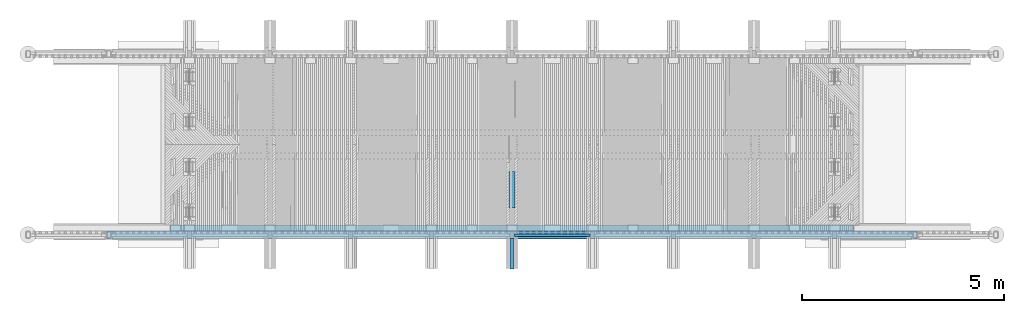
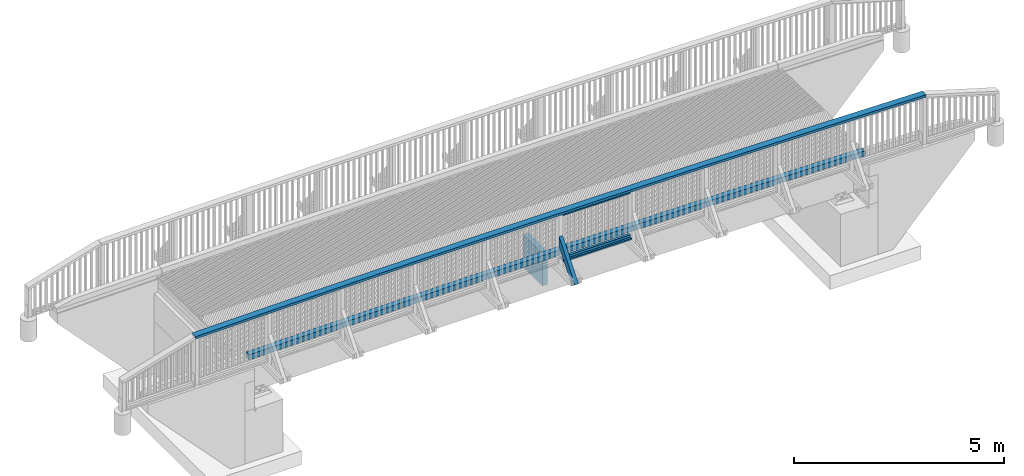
# One storey, part 28 of 53: 6 beams, 1 member.
"""IFC2X3 building model written with IfcOpenShell, lengths in millimetres."""

from ifc_helpers import new_model, si_unit, frame, origin_with_axes, place, context, subcontext, project, spatial, faceted_brep, material, type_object, element, save


model = new_model("IFC2X3")

# Units and contexts
model_context = context("Model", 3, precision=1e-05, world=origin_with_axes())
body_context = subcontext(model_context, "Body", "Model", "MODEL_VIEW")
ifc_project = project(units=[si_unit("LENGTHUNIT", "METRE", prefix="MILLI"), si_unit("AREAUNIT", "SQUARE_METRE"), si_unit("VOLUMEUNIT", "CUBIC_METRE"), si_unit("MASSUNIT", "GRAM", prefix="KILO"), si_unit("TIMEUNIT", "SECOND"), si_unit("PLANEANGLEUNIT", "RADIAN"), si_unit("SOLIDANGLEUNIT", "STERADIAN"), si_unit("THERMODYNAMICTEMPERATUREUNIT", "DEGREE_CELSIUS"), si_unit("LUMINOUSINTENSITYUNIT", "LUMEN")], contexts=[model_context])

# Site, building, storey
site_placement = place(None, origin_with_axes())
site = spatial("IfcSite", under=ifc_project, at=site_placement, Name="Undefined", CompositionType="ELEMENT")
building_placement = place(site_placement, origin_with_axes())
building = spatial("IfcBuilding", under=site, at=building_placement, Name="Undefined", CompositionType="ELEMENT")
storey_placement = place(building_placement, origin_with_axes())
storey = spatial("IfcBuildingStorey", under=building, at=storey_placement, Name="Undefined", CompositionType="ELEMENT", Elevation=0.0)

# Beam
ifc_material = material(Name="TIMBER/Timber_Undefined")
beam_type_1 = type_object("IfcBeamType", Name="150*150", PredefinedType="NOTDEFINED")
beam_1_placement = place(storey_placement, frame((-101.638019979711, 40290.0049077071, 3288.62561019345), z_axis=(0.0, -1.0, 0.0), x_axis=(1.0, 0.0, 0.0)))
element("IfcBeam", 1, at=beam_1_placement, inside=storey, type_object=beam_type_1, material=ifc_material, Name="TÖRMÄYSJOHDE", ObjectType="150*150", context=body_context, shape_type="Brep", body=[
    faceted_brep([(-322.982711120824, -79.4552193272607, 75.0), (-325.088810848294, 70.5299944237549, 75.0), (-367.511180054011, 69.9228401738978, 75.0), (-368.361913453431, -80.1046921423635, 75.0), (-325.088810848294, 70.5299944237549, -75.0), (-367.511180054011, 69.9228401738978, -75.0), (-322.982711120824, -79.4552193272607, -75.0), (-368.361913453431, -80.1046921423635, -75.0), (1.01255045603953, -74.9931646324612, -75.0), (1.01255045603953, -74.9931646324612, 75.0), (-1.01255045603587, 74.9931646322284, 75.0), (-1.01255045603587, 74.9931646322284, -75.0), (323.066072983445, 79.2813189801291, -75.0), (325.010174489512, -70.7060820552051, -75.0), (325.010174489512, -70.7060820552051, 75.0), (323.066072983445, 79.2813189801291, 75.0), (647.146964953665, 83.3944562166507, 75.0), (647.146964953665, 83.3944562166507, -75.0), (649.010066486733, -66.5939728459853, -75.0), (649.010066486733, -66.5939728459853, 75.0), (973.012131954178, -62.6568382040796, 75.0), (971.230030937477, 87.3325751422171, 75.0), (971.230030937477, 87.3325751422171, -75.0), (973.012131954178, -62.6568382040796, -75.0), (1297.01627639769, -58.8946792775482, -75.0), (1297.01627639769, -58.8946792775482, 75.0), (1295.3151764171, 91.0956746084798, 75.0), (1295.3151764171, 91.0956746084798, -75.0), (1619.40230687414, 94.6837535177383, -75.0), (1621.0224053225, -55.307497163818, -75.0), (1621.0224053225, -55.307497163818, 75.0), (1619.40230687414, 94.6837535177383, 75.0), (1943.49132778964, 98.096810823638, 75.0), (1943.49132778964, 98.096810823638, -75.0), (1945.03042423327, -51.8952929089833, -75.0), (1945.03042423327, -51.8952929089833, 75.0), (2269.04023863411, -48.6580675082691, 75.0), (2267.58214464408, 101.334845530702, 75.0), (2267.58214464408, 101.334845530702, -75.0), (2269.04023863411, -48.6580675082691, -75.0), (2593.05175402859, -45.5958219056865, -75.0), (2593.05175402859, -45.5958219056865, 75.0), (2591.67466291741, 104.397856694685, 75.0), (2591.67466291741, 104.397856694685, -75.0), (2915.7687880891, 107.285843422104, -75.0), (2917.06487591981, -42.7085569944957, -75.0), (2917.06487591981, -42.7085569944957, 75.0), (2915.7687880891, 107.285843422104, 75.0), (3239.86442563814, 109.998804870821, 75.0), (3239.86442563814, 109.998804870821, -75.0), (3241.07950981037, -39.9962736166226, -75.0), (3241.07950981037, -39.9962736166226, 75.0), (3565.09556120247, -37.4589725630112, 75.0), (3563.96148104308, 112.536740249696, 75.0), (3563.96148104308, 112.536740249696, -75.0), (3565.09556120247, -37.4589725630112, -75.0), (3889.11293559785, -35.0966545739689, -75.0), (3889.11293559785, -35.0966545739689, 75.0), (3888.05985978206, 114.899648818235, 75.0), (3888.05985978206, 114.899648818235, -75.0), (4212.15946733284, 117.087529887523, -75.0), (4213.1315384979, -32.9093203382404, -75.0), (4213.1315384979, -32.9093203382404, 75.0), (4212.15946733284, 117.087529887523, 75.0), (4536.2602091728, 119.100382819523, 75.0), (4536.2602091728, 119.100382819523, -75.0), (4537.15127540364, -30.8969704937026, -75.0), (4537.15127540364, -30.8969704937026, 75.0), (4861.17205181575, -29.0596056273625, 75.0), (4860.36199077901, 120.938207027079, 75.0), (4860.36199077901, 120.938207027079, -75.0), (4861.17205181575, -29.0596056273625, -75.0), (5185.19377323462, -27.3972262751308, -75.0), (5185.19377323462, -27.3972262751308, 75.0), (5184.46471762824, 122.601001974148, 75.0), (5184.46471762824, 122.601001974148, -75.0), (5508.56829519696, 124.088767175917, -75.0), (5509.21634516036, -25.9098329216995, -75.0), (5509.21634516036, -25.9098329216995, 75.0), (5508.56829519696, 124.088767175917, 75.0), (5832.67262896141, 125.401502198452, 75.0), (5832.67262896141, 125.401502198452, -75.0), (5833.23967309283, -24.5974260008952, -75.0), (5833.23967309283, -24.5974260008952, 75.0), (6157.26366253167, -23.4600058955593, 75.0), (6156.77762439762, 126.539206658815, 75.0), (6156.77762439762, 126.539206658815, -75.0), (6157.26366253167, -23.4600058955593, -75.0), (6481.28821897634, -22.4975729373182, -75.0), (6481.28821897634, -22.4975729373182, 75.0), (6480.88318698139, 127.501880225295, 75.0), (6480.88318698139, 127.501880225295, -75.0), (6804.98922218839, 128.289522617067, -75.0), (6805.3132479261, -21.7101274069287, -75.0), (6805.3132479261, -21.7101274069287, 75.0), (6804.98922218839, 128.289522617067, 75.0), (7129.09563549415, 128.902133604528, 75.0), (7129.09563549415, 128.902133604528, -75.0), (7129.33865488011, -21.0976695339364, -75.0), (7129.33865488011, -21.0976695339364, 75.0), (7453.36434533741, -20.6601994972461, 75.0), (7453.20233237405, 129.339713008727, 75.0), (7453.20233237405, 129.339713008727, -75.0), (7453.36434533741, -20.6601994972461, -75.0), (7777.39022479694, -20.3977174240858, -75.0), (7777.39022479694, -20.3977174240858, 75.0), (7777.30921830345, 129.602260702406, 75.0), (7777.30921830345, 129.602260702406, -75.0), (8101.4161987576, 129.689776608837, -75.0), (8101.4161987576, -20.3102233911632, -75.0), (8101.4161987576, -20.3102233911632, 75.0), (8101.4161987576, 129.689776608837, 75.0), (8425.52317921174, 129.602260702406, 75.0), (8425.52317921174, 129.602260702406, -75.0), (8425.44217271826, -20.3977174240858, -75.0), (8425.44217271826, -20.3977174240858, 75.0), (8749.46805217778, -20.6601994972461, 75.0), (8749.63006514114, 129.339713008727, 75.0), (8749.63006514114, 129.339713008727, -75.0), (8749.46805217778, -20.6601994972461, -75.0), (9073.49374263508, -21.0976695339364, -75.0), (9073.49374263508, -21.0976695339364, 75.0), (9073.73676202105, 128.902133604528, 75.0), (9073.73676202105, 128.902133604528, -75.0), (9397.8431753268, 128.289522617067, -75.0), (9397.51914958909, -21.7101274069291, -75.0), (9397.51914958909, -21.7101274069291, 75.0), (9397.8431753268, 128.289522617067, 75.0), (9721.9492105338, 127.501880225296, 75.0), (9721.9492105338, 127.501880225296, -75.0), (9721.54417853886, -22.4975729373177, -75.0), (9721.54417853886, -22.4975729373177, 75.0), (10045.5687349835, -23.4600058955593, 75.0), (10046.0547731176, 126.539206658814, 75.0), (10046.0547731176, 126.539206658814, -75.0), (10045.5687349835, -23.4600058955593, -75.0), (10369.5927244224, -24.5974260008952, -75.0), (10369.5927244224, -24.5974260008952, 75.0), (10370.1597685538, 125.401502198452, 75.0), (10370.1597685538, 125.401502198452, -75.0), (10694.2641023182, 124.088767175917, -75.0), (10693.6160523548, -25.9098329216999, -75.0), (10693.6160523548, -25.9098329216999, 75.0), (10694.2641023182, 124.088767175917, 75.0), (11018.367679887, 122.601001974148, 75.0), (11018.367679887, 122.601001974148, -75.0), (11017.6386242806, -27.3972262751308, -75.0), (11017.6386242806, -27.3972262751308, 75.0), (11341.6603456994, -29.0596056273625, 75.0), (11342.4704067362, 120.938207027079, 75.0), (11342.4704067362, 120.938207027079, -75.0), (11341.6603456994, -29.0596056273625, -75.0), (11665.6811221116, -30.8969704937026, -75.0), (11665.6811221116, -30.8969704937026, 75.0), (11666.5721883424, 119.100382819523, 75.0), (11666.5721883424, 119.100382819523, -75.0), (11990.6729301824, 117.087529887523, -75.0), (11989.7008590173, -32.9093203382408, -75.0), (11989.7008590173, -32.9093203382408, 75.0), (11990.6729301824, 117.087529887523, 75.0), (12314.7725377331, 114.899648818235, 75.0), (12314.7725377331, 114.899648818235, -75.0), (12313.7194619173, -35.0966545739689, -75.0), (12313.7194619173, -35.0966545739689, 75.0), (12637.7368363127, -37.4589725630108, 75.0), (12638.8709164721, 112.536740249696, 75.0), (12638.8709164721, 112.536740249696, -75.0), (12637.7368363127, -37.4589725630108, -75.0), (12961.7528877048, -39.9962736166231, -75.0), (12961.7528877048, -39.9962736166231, 75.0), (12962.9679718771, 109.998804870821, 75.0), (12962.9679718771, 109.998804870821, -75.0), (13287.0636094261, 107.285843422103, -75.0), (13285.7675215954, -42.7085569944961, -75.0), (13285.7675215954, -42.7085569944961, 75.0), (13287.0636094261, 107.285843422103, 75.0), (13611.1577345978, 104.397856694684, 75.0), (13611.1577345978, 104.397856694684, -75.0), (13609.7806434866, -45.5958219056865, -75.0), (13609.7806434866, -45.5958219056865, 75.0), (13933.7921588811, -48.6580675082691, 75.0), (13935.2502528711, 101.334845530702, 75.0), (13935.2502528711, 101.334845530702, -75.0), (13933.7921588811, -48.6580675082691, -75.0), (14257.8019732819, -51.8952929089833, -75.0), (14257.8019732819, -51.8952929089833, 75.0), (14259.3410697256, 98.096810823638, 75.0), (14259.3410697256, 98.096810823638, -75.0), (14583.430090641, 94.6837535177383, -75.0), (14581.8099921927, -55.3074971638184, -75.0), (14581.8099921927, -55.3074971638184, 75.0), (14583.430090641, 94.6837535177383, 75.0), (14907.5172210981, 91.0956746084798, 75.0), (14907.5172210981, 91.0956746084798, -75.0), (14905.8161211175, -58.8946792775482, -75.0), (14905.8161211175, -58.8946792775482, 75.0), (15229.820265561, -62.6568382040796, 75.0), (15231.6023665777, 87.3325751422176, 75.0), (15231.6023665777, 87.3325751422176, -75.0), (15229.820265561, -62.6568382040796, -75.0), (15553.8223310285, -66.5939728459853, -75.0), (15553.8223310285, -66.5939728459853, 75.0), (15555.6854325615, 83.3944562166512, 75.0), (15555.6854325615, 83.3944562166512, -75.0), (15879.7663245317, 79.2813189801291, -75.0), (15877.8222230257, -70.7060820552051, -75.0), (15877.8222230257, -70.7060820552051, 75.0), (15879.7663245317, 79.2813189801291, 75.0), (16203.8449479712, 74.9931646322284, 75.0), (16203.8449479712, 74.9931646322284, -75.0), (16201.8198470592, -74.9931646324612, -75.0), (16201.8198470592, -74.9931646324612, 75.0), (16513.3537972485, -79.2803664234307, 75.0), (16515.4567816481, 70.7048910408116, 75.0), (16515.4567816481, 70.7048910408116, -75.0), (16513.3537972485, -79.2803664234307, -75.0), (16571.6382119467, -80.1127239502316, -75.0), (16571.6382119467, -80.1127239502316, 75.0), (16570.7872297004, 69.9147190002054, 75.0), (16570.7872297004, 69.9147190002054, -75.0)], [[[0, 1, 2, 3]], [[1, 4, 5, 2]], [[4, 6, 7, 5]], [[3, 2, 5, 7]], [[6, 0, 3, 7]], [[0, 6, 8, 9]], [[1, 0, 9, 10]], [[4, 1, 10, 11]], [[6, 4, 11, 8]], [[8, 11, 12, 13]], [[9, 8, 13, 14]], [[10, 9, 14, 15]], [[11, 10, 15, 12]], [[12, 15, 16, 17]], [[13, 12, 17, 18]], [[14, 13, 18, 19]], [[15, 14, 19, 16]], [[16, 19, 20, 21]], [[17, 16, 21, 22]], [[18, 17, 22, 23]], [[19, 18, 23, 20]], [[20, 23, 24, 25]], [[21, 20, 25, 26]], [[22, 21, 26, 27]], [[23, 22, 27, 24]], [[24, 27, 28, 29]], [[25, 24, 29, 30]], [[26, 25, 30, 31]], [[27, 26, 31, 28]], [[28, 31, 32, 33]], [[29, 28, 33, 34]], [[30, 29, 34, 35]], [[31, 30, 35, 32]], [[32, 35, 36, 37]], [[33, 32, 37, 38]], [[34, 33, 38, 39]], [[35, 34, 39, 36]], [[36, 39, 40, 41]], [[37, 36, 41, 42]], [[38, 37, 42, 43]], [[39, 38, 43, 40]], [[40, 43, 44, 45]], [[41, 40, 45, 46]], [[42, 41, 46, 47]], [[43, 42, 47, 44]], [[44, 47, 48, 49]], [[45, 44, 49, 50]], [[46, 45, 50, 51]], [[47, 46, 51, 48]], [[48, 51, 52, 53]], [[49, 48, 53, 54]], [[50, 49, 54, 55]], [[51, 50, 55, 52]], [[52, 55, 56, 57]], [[53, 52, 57, 58]], [[54, 53, 58, 59]], [[55, 54, 59, 56]], [[56, 59, 60, 61]], [[57, 56, 61, 62]], [[58, 57, 62, 63]], [[59, 58, 63, 60]], [[60, 63, 64, 65]], [[61, 60, 65, 66]], [[62, 61, 66, 67]], [[63, 62, 67, 64]], [[64, 67, 68, 69]], [[65, 64, 69, 70]], [[66, 65, 70, 71]], [[67, 66, 71, 68]], [[68, 71, 72, 73]], [[69, 68, 73, 74]], [[70, 69, 74, 75]], [[71, 70, 75, 72]], [[72, 75, 76, 77]], [[73, 72, 77, 78]], [[74, 73, 78, 79]], [[75, 74, 79, 76]], [[76, 79, 80, 81]], [[77, 76, 81, 82]], [[78, 77, 82, 83]], [[79, 78, 83, 80]], [[80, 83, 84, 85]], [[81, 80, 85, 86]], [[82, 81, 86, 87]], [[83, 82, 87, 84]], [[84, 87, 88, 89]], [[85, 84, 89, 90]], [[86, 85, 90, 91]], [[87, 86, 91, 88]], [[88, 91, 92, 93]], [[89, 88, 93, 94]], [[90, 89, 94, 95]], [[91, 90, 95, 92]], [[92, 95, 96, 97]], [[93, 92, 97, 98]], [[94, 93, 98, 99]], [[95, 94, 99, 96]], [[96, 99, 100, 101]], [[97, 96, 101, 102]], [[98, 97, 102, 103]], [[99, 98, 103, 100]], [[100, 103, 104, 105]], [[101, 100, 105, 106]], [[102, 101, 106, 107]], [[103, 102, 107, 104]], [[104, 107, 108, 109]], [[105, 104, 109, 110]], [[106, 105, 110, 111]], [[107, 106, 111, 108]], [[108, 111, 112, 113]], [[109, 108, 113, 114]], [[110, 109, 114, 115]], [[111, 110, 115, 112]], [[112, 115, 116, 117]], [[113, 112, 117, 118]], [[114, 113, 118, 119]], [[115, 114, 119, 116]], [[116, 119, 120, 121]], [[117, 116, 121, 122]], [[118, 117, 122, 123]], [[119, 118, 123, 120]], [[120, 123, 124, 125]], [[121, 120, 125, 126]], [[122, 121, 126, 127]], [[123, 122, 127, 124]], [[124, 127, 128, 129]], [[125, 124, 129, 130]], [[126, 125, 130, 131]], [[127, 126, 131, 128]], [[128, 131, 132, 133]], [[129, 128, 133, 134]], [[130, 129, 134, 135]], [[131, 130, 135, 132]], [[132, 135, 136, 137]], [[133, 132, 137, 138]], [[134, 133, 138, 139]], [[135, 134, 139, 136]], [[136, 139, 140, 141]], [[137, 136, 141, 142]], [[138, 137, 142, 143]], [[139, 138, 143, 140]], [[140, 143, 144, 145]], [[141, 140, 145, 146]], [[142, 141, 146, 147]], [[143, 142, 147, 144]], [[144, 147, 148, 149]], [[145, 144, 149, 150]], [[146, 145, 150, 151]], [[147, 146, 151, 148]], [[148, 151, 152, 153]], [[149, 148, 153, 154]], [[150, 149, 154, 155]], [[151, 150, 155, 152]], [[152, 155, 156, 157]], [[153, 152, 157, 158]], [[154, 153, 158, 159]], [[155, 154, 159, 156]], [[156, 159, 160, 161]], [[157, 156, 161, 162]], [[158, 157, 162, 163]], [[159, 158, 163, 160]], [[160, 163, 164, 165]], [[161, 160, 165, 166]], [[162, 161, 166, 167]], [[163, 162, 167, 164]], [[164, 167, 168, 169]], [[165, 164, 169, 170]], [[166, 165, 170, 171]], [[167, 166, 171, 168]], [[168, 171, 172, 173]], [[169, 168, 173, 174]], [[170, 169, 174, 175]], [[171, 170, 175, 172]], [[172, 175, 176, 177]], [[173, 172, 177, 178]], [[174, 173, 178, 179]], [[175, 174, 179, 176]], [[176, 179, 180, 181]], [[177, 176, 181, 182]], [[178, 177, 182, 183]], [[179, 178, 183, 180]], [[180, 183, 184, 185]], [[181, 180, 185, 186]], [[182, 181, 186, 187]], [[183, 182, 187, 184]], [[184, 187, 188, 189]], [[185, 184, 189, 190]], [[186, 185, 190, 191]], [[187, 186, 191, 188]], [[188, 191, 192, 193]], [[189, 188, 193, 194]], [[190, 189, 194, 195]], [[191, 190, 195, 192]], [[192, 195, 196, 197]], [[193, 192, 197, 198]], [[194, 193, 198, 199]], [[195, 194, 199, 196]], [[196, 199, 200, 201]], [[197, 196, 201, 202]], [[198, 197, 202, 203]], [[199, 198, 203, 200]], [[200, 203, 204, 205]], [[201, 200, 205, 206]], [[202, 201, 206, 207]], [[203, 202, 207, 204]], [[204, 207, 208, 209]], [[205, 204, 209, 210]], [[206, 205, 210, 211]], [[207, 206, 211, 208]], [[208, 211, 212, 213]], [[209, 208, 213, 214]], [[210, 209, 214, 215]], [[211, 210, 215, 212]], [[212, 215, 216, 217]], [[213, 212, 217, 218]], [[214, 213, 218, 219]], [[215, 214, 219, 216]], [[218, 217, 216, 219]]]),
])

# Member
member_type = type_object("IfcMemberType", Name="180*100", PredefinedType="NOTDEFINED")
member_placement = place(storey_placement, frame((8000.00641464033, 39351.2316008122, 2953.94911855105), z_axis=(0.0, -0.783926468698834, 0.620853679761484), x_axis=(-4.01699999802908e-06, 0.620853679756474, 0.783926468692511)))
element("IfcMember", 2, at=member_placement, inside=storey, type_object=member_type, material=ifc_material, Name="KAIDEPYLVÄS", ObjectType="180*100", context=body_context, shape_type="Brep", body=[
    faceted_brep([(0.0, 50.0, -89.9999999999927), (0.0, 50.0, 90.0), (1214.99480886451, 50.0000000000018, 90.0000000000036), (987.716194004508, 50.0, -89.9999999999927), (0.0, -49.9999999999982, 90.0000000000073), (1214.99440716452, -49.9999999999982, 90.0000000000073), (-3.63797880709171e-12, -49.9999999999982, -90.0), (987.715792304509, -49.9999999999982, -89.9999999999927)], [[[0, 1, 2, 3]], [[1, 4, 5, 2]], [[4, 6, 7, 5]], [[6, 0, 3, 7]], [[5, 7, 3, 2]], [[6, 4, 1, 0]]]),
])

# Beams
beam_type_2 = type_object("IfcBeamType", Name="70*70", PredefinedType="NOTDEFINED")
for number, where, z_axis, x_axis, name in (
    (3, (8059.93901393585, 40110.0100146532, 3263.2738534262), (0.0, -1.0, 0.0), (0.999998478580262, 0.0, -0.00174437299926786), "BEAM"),
    (4, (8059.93901393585, 40110.0100146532, 4528.2738534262), (0.0, -1.0, 0.0), (0.999998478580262, 0.0, -0.00174437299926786), "BEAM"),
):
    element("IfcBeam", number, at=place(storey_placement, frame(where, z_axis=z_axis, x_axis=x_axis)), inside=storey, type_object=beam_type_2, material=ifc_material, Name=name, ObjectType="70*70", context=body_context, shape_type="Brep", body=[
        faceted_brep([(-3.63797880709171e-12, 35.0000000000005, -35.0), (-3.63797880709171e-12, 35.0000000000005, 35.0), (1880.00289069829, 35.0, 35.0), (1880.00289069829, 35.0, -35.0), (-3.63797880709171e-12, -34.9999999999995, 35.0), (1880.00289069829, -35.0000000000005, 35.0), (-3.63797880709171e-12, -34.9999999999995, -35.0), (1880.00289069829, -35.0000000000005, -35.0)], [[[0, 1, 2, 3]], [[1, 4, 5, 2]], [[4, 6, 7, 5]], [[6, 0, 3, 7]], [[5, 7, 3, 2]], [[6, 4, 1, 0]]]),
    ])
beam_type_3 = type_object("IfcBeamType", Name="195*40", PredefinedType="NOTDEFINED")
beam_2_placement = place(storey_placement, frame((8058.98681846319, 40117.5100146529, 3208.28467859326), z_axis=(0.0, -1.0, 0.0), x_axis=(0.999998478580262, 0.0, -0.00174437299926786)))
element("IfcBeam", 5, at=beam_2_placement, inside=storey, type_object=beam_type_3, material=ifc_material, Name="BEAM", ObjectType="195*40", context=body_context, shape_type="Brep", body=[
    faceted_brep([(0.0, 20.0, -97.5), (0.0, 20.0, 97.5), (1880.22135781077, 19.9999999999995, 97.5), (1880.22135781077, 19.9999999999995, -97.5), (3.63797880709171e-12, -20.0, 97.5), (1880.22135781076, -20.0000000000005, 97.5), (3.63797880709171e-12, -20.0, -97.5), (1880.22135781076, -20.0000000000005, -97.5)], [[[0, 1, 2, 3]], [[1, 4, 5, 2]], [[4, 6, 7, 5]], [[6, 0, 3, 7]], [[5, 7, 3, 2]], [[6, 4, 1, 0]]]),
])
beam_type_4 = type_object("IfcBeamType", Name="180*70", PredefinedType="NOTDEFINED")
beam_3_placement = place(storey_placement, frame((-2050.58316541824, 40125.0120919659, 4514.55540579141), z_axis=(0.0, -1.0, 0.0), x_axis=(1.0, 0.0, 0.0)))
element("IfcBeam", 6, at=beam_3_placement, inside=storey, type_object=beam_type_4, material=ifc_material, Name="YLÄJOHDE", ObjectType="180*70", context=body_context, shape_type="Brep", body=[
    faceted_brep([(402.548160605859, -28.4307633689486, -90.0), (402.548160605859, -28.4307633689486, 90.0), (9.583166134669, -34.8481648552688, 90.0), (9.583166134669, -34.8481648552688, -90.0), (401.428487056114, 41.5602812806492, 90.0), (9.58316627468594, 35.1611648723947, 90.0), (401.428487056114, 41.5602812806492, -90.0), (9.58316627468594, 35.1611648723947, -90.0), (803.444421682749, 47.8574786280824, -90.0), (804.517445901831, -22.1342967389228, -90.0), (804.517445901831, -22.1342967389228, 90.0), (803.444421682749, 47.8574786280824, 90.0), (1205.46446410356, 53.8867306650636, 90.0), (1205.46446410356, 53.8867306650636, -90.0), (1206.49083851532, -16.105744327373, -90.0), (1206.49083851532, -16.105744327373, 90.0), (1608.46815988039, -10.3451088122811, 90.0), (1607.4884357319, 59.6480347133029, 90.0), (1607.4884357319, 59.6480347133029, -90.0), (1608.46815988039, -10.3451088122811, -90.0), (2010.44923142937, -4.85239275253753, -90.0), (2010.44923142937, -4.85239275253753, 90.0), (2009.51615797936, 65.1413882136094, 90.0), (2009.51615797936, 65.1413882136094, -90.0), (2411.54745225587, 70.3667887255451, -90.0), (2412.43387459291, 0.372401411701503, -90.0), (2412.43387459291, 0.372401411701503, 90.0), (2411.54745225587, 70.3667887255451, 90.0), (2813.58213996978, 75.3242339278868, 90.0), (2813.58213996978, 75.3242339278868, -90.0), (2814.42191080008, 5.32927135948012, -90.0), (2814.42191080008, 5.32927135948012, 90.0), (3216.41316147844, 10.0182148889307, 90.0), (3215.62004252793, 80.0137216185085, 90.0), (3215.62004252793, 80.0137216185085, -90.0), (3216.41316147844, 10.0182148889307, -90.0), (3618.40744805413, 14.4392299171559, -90.0), (3618.40744805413, 14.4392299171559, 90.0), (3617.66098133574, 84.4352497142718, 90.0), (3617.66098133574, 84.4352497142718, -90.0), (4019.70477779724, 88.5888162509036, -90.0), (4020.40459195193, 18.5923144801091, -90.0), (4020.40459195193, 18.5923144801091, 90.0), (4019.70477779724, 88.5888162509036, 90.0), (4421.75125331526, 92.4744193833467, 90.0), (4421.75125331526, 92.4744193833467, -90.0), (4422.40441459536, 22.4774667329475, -90.0), (4422.40441459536, 22.4774667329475, 90.0), (4824.40673740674, 26.0946849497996, 90.0), (4823.80022929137, 96.0920573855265, 90.0), (4823.80022929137, 96.0920573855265, -90.0), (4824.40673740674, 26.0946849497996, -90.0), (5226.4113818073, 29.4439675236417, -90.0), (5226.4113818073, 29.4439675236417, 90.0), (5225.85152712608, 99.4417286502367, 90.0), (5225.85152712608, 99.4417286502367, -90.0), (5627.90496821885, 102.523431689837, -90.0), (5628.41816921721, 32.5253129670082, -90.0), (5628.41816921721, 32.5253129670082, 90.0), (5627.90496821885, 102.523431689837, 90.0), (6029.96037396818, 105.337165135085, 90.0), (6029.96037396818, 105.337165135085, -90.0), (6030.4269210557, 35.3387199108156, -90.0), (6030.4269210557, 35.3387199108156, 90.0), (6432.43745874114, 37.8841871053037, 90.0), (6432.01756577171, 107.882927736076, 90.0), (6432.01756577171, 107.882927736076, -90.0), (6432.43745874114, 37.8841871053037, -90.0), (6834.4496036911, 40.1617134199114, -90.0), (6834.4496036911, 40.1617134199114, 90.0), (6834.07636502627, 110.160718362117, 90.0), (6834.07636502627, 110.160718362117, -90.0), (7236.136593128, 112.170536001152, -90.0), (7236.46317732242, 42.1712978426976, -90.0), (7236.46317732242, 42.1712978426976, 90.0), (7236.136593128, 112.170536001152, 90.0), (7638.19807147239, 113.912379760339, 90.0), (7638.19807147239, 113.912379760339, -90.0), (7638.47800105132, 43.9129394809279, -90.0), (7638.47800105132, 43.9129394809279, 90.0), (8040.49389629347, 45.3866375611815, 90.0), (8040.26062145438, 115.38624886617, 90.0), (8040.26062145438, 115.38624886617, -90.0), (8040.49389629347, 45.3866375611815, -90.0), (8442.51068446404, 46.5923914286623, -90.0), (8442.51068446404, 46.5923914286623, 90.0), (8442.32406446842, 116.592142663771, 90.0), (8442.32406446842, 116.592142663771, -90.0), (8844.38822190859, 117.530060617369, -90.0), (8844.52818697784, 47.530200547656, -90.0), (8844.52818697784, 47.530200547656, 90.0), (8844.38822190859, 117.530060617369, 90.0), (9246.45291516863, 118.200002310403, 90.0), (9246.45291516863, 118.200002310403, -90.0), (9246.54622524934, 48.2000645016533, -90.0), (9246.54622524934, 48.2000645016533, 90.0), (9648.56462069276, 48.6019829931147, 90.0), (9648.51796564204, 118.601967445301, 90.0), (9648.51796564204, 118.601967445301, -90.0), (9648.56462069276, 48.6019829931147, -90.0), (10050.5831947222, 48.7359558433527, -90.0), (10050.5831947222, 48.7359558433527, 90.0), (10050.5831947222, 118.735955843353, 90.0), (10050.5831947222, 118.735955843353, -90.0), (10452.6484238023, 118.601967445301, -90.0), (10452.6017687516, 48.6019829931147, -90.0), (10452.6017687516, 48.6019829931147, 90.0), (10452.6484238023, 118.601967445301, 90.0), (10854.7134742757, 118.200002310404, 90.0), (10854.7134742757, 118.200002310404, -90.0), (10854.620164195, 48.2000645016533, -90.0), (10854.620164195, 48.2000645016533, 90.0), (11256.6382024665, 47.530200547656, 90.0), (11256.7781675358, 117.530060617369, 90.0), (11256.7781675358, 117.530060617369, -90.0), (11256.6382024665, 47.530200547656, -90.0), (11658.6557049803, 46.5923914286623, -90.0), (11658.6557049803, 46.5923914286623, 90.0), (11658.8423249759, 116.592142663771, 90.0), (11658.8423249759, 116.592142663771, -90.0), (12060.90576799, 115.386248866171, -90.0), (12060.6724931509, 45.3866375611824, -90.0), (12060.6724931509, 45.3866375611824, 90.0), (12060.90576799, 115.386248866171, 90.0), (12462.968317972, 113.912379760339, 90.0), (12462.968317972, 113.912379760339, -90.0), (12462.688388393, 43.9129394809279, -90.0), (12462.688388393, 43.9129394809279, 90.0), (12864.7032121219, 42.1712978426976, 90.0), (12865.0297963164, 112.170536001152, 90.0), (12865.0297963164, 112.170536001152, -90.0), (12864.7032121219, 42.1712978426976, -90.0), (13266.7167857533, 40.1617134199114, -90.0), (13266.7167857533, 40.1617134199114, 90.0), (13267.0900244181, 110.160718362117, 90.0), (13267.0900244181, 110.160718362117, -90.0), (13669.1488236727, 107.882927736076, -90.0), (13668.7289307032, 37.8841871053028, -90.0), (13668.7289307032, 37.8841871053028, 90.0), (13669.1488236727, 107.882927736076, 90.0), (14071.2060154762, 105.337165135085, 90.0), (14071.2060154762, 105.337165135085, -90.0), (14070.7394683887, 35.3387199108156, -90.0), (14070.7394683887, 35.3387199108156, 90.0), (14472.7482202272, 32.5253129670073, 90.0), (14473.2614212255, 102.523431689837, 90.0), (14473.2614212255, 102.523431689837, -90.0), (14472.7482202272, 32.5253129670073, -90.0), (14874.7550076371, 29.4439675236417, -90.0), (14874.7550076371, 29.4439675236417, 90.0), (14875.3148623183, 99.4417286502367, 90.0), (14875.3148623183, 99.4417286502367, -90.0), (15277.366160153, 96.0920573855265, -90.0), (15276.7596520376, 26.0946849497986, -90.0), (15276.7596520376, 26.0946849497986, 90.0), (15277.366160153, 96.0920573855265, 90.0), (15679.4151361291, 92.4744193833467, 90.0), (15679.4151361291, 92.4744193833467, -90.0), (15678.761974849, 22.4774667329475, -90.0), (15678.761974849, 22.4774667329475, 90.0), (16080.7617974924, 18.5923144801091, 90.0), (16081.4616116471, 88.5888162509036, 90.0), (16081.4616116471, 88.5888162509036, -90.0), (16080.7617974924, 18.5923144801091, -90.0), (16482.7589413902, 14.4392299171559, -90.0), (16482.7589413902, 14.4392299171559, 90.0), (16483.5054081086, 84.4352497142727, 90.0), (16483.5054081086, 84.4352497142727, -90.0), (16885.5463469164, 80.0137216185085, -90.0), (16884.7532279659, 10.0182148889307, -90.0), (16884.7532279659, 10.0182148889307, 90.0), (16885.5463469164, 80.0137216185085, 90.0), (17287.5842494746, 75.3242339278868, 90.0), (17287.5842494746, 75.3242339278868, -90.0), (17286.7444786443, 5.32927135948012, -90.0), (17286.7444786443, 5.32927135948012, 90.0), (17688.7325148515, 0.372401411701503, 90.0), (17689.6189371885, 70.3667887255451, 90.0), (17689.6189371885, 70.3667887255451, -90.0), (17688.7325148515, 0.372401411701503, -90.0), (18090.717158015, -4.85239275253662, -90.0), (18090.717158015, -4.85239275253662, 90.0), (18091.650231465, 65.1413882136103, 90.0), (18091.650231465, 65.1413882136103, -90.0), (18493.6779537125, 59.648034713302, -90.0), (18492.698229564, -10.3451088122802, -90.0), (18492.698229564, -10.3451088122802, 90.0), (18493.6779537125, 59.648034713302, 90.0), (18895.7019253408, 53.8867306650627, 90.0), (18895.7019253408, 53.8867306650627, -90.0), (18894.675550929, -16.1057443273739, -90.0), (18894.675550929, -16.1057443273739, 90.0), (19296.6489435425, -22.1342967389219, 90.0), (19297.7219677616, 47.8574786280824, 90.0), (19297.7219677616, 47.8574786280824, -90.0), (19296.6489435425, -22.1342967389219, -90.0), (19698.6182288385, -28.4307633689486, -90.0), (19698.6182288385, -28.4307633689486, 90.0), (19699.7379023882, 41.5602812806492, 90.0), (19699.7379023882, 41.5602812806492, -90.0), (20089.5831647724, 35.1938272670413, -90.0), (20089.5831646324, -34.8155024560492, -90.0), (20089.5831646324, -34.8155024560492, 90.0), (20089.5831647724, 35.1938272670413, 90.0)], [[[0, 1, 2, 3]], [[1, 4, 5, 2]], [[4, 6, 7, 5]], [[2, 5, 7, 3]], [[6, 0, 3, 7]], [[0, 6, 8, 9]], [[1, 0, 9, 10]], [[4, 1, 10, 11]], [[6, 4, 11, 8]], [[8, 11, 12, 13]], [[9, 8, 13, 14]], [[10, 9, 14, 15]], [[11, 10, 15, 12]], [[12, 15, 16, 17]], [[13, 12, 17, 18]], [[14, 13, 18, 19]], [[15, 14, 19, 16]], [[16, 19, 20, 21]], [[17, 16, 21, 22]], [[18, 17, 22, 23]], [[19, 18, 23, 20]], [[20, 23, 24, 25]], [[21, 20, 25, 26]], [[22, 21, 26, 27]], [[23, 22, 27, 24]], [[24, 27, 28, 29]], [[25, 24, 29, 30]], [[26, 25, 30, 31]], [[27, 26, 31, 28]], [[28, 31, 32, 33]], [[29, 28, 33, 34]], [[30, 29, 34, 35]], [[31, 30, 35, 32]], [[32, 35, 36, 37]], [[33, 32, 37, 38]], [[34, 33, 38, 39]], [[35, 34, 39, 36]], [[36, 39, 40, 41]], [[37, 36, 41, 42]], [[38, 37, 42, 43]], [[39, 38, 43, 40]], [[40, 43, 44, 45]], [[41, 40, 45, 46]], [[42, 41, 46, 47]], [[43, 42, 47, 44]], [[44, 47, 48, 49]], [[45, 44, 49, 50]], [[46, 45, 50, 51]], [[47, 46, 51, 48]], [[48, 51, 52, 53]], [[49, 48, 53, 54]], [[50, 49, 54, 55]], [[51, 50, 55, 52]], [[52, 55, 56, 57]], [[53, 52, 57, 58]], [[54, 53, 58, 59]], [[55, 54, 59, 56]], [[56, 59, 60, 61]], [[57, 56, 61, 62]], [[58, 57, 62, 63]], [[59, 58, 63, 60]], [[60, 63, 64, 65]], [[61, 60, 65, 66]], [[62, 61, 66, 67]], [[63, 62, 67, 64]], [[64, 67, 68, 69]], [[65, 64, 69, 70]], [[66, 65, 70, 71]], [[67, 66, 71, 68]], [[68, 71, 72, 73]], [[69, 68, 73, 74]], [[70, 69, 74, 75]], [[71, 70, 75, 72]], [[72, 75, 76, 77]], [[73, 72, 77, 78]], [[74, 73, 78, 79]], [[75, 74, 79, 76]], [[76, 79, 80, 81]], [[77, 76, 81, 82]], [[78, 77, 82, 83]], [[79, 78, 83, 80]], [[80, 83, 84, 85]], [[81, 80, 85, 86]], [[82, 81, 86, 87]], [[83, 82, 87, 84]], [[84, 87, 88, 89]], [[85, 84, 89, 90]], [[86, 85, 90, 91]], [[87, 86, 91, 88]], [[88, 91, 92, 93]], [[89, 88, 93, 94]], [[90, 89, 94, 95]], [[91, 90, 95, 92]], [[92, 95, 96, 97]], [[93, 92, 97, 98]], [[94, 93, 98, 99]], [[95, 94, 99, 96]], [[96, 99, 100, 101]], [[97, 96, 101, 102]], [[98, 97, 102, 103]], [[99, 98, 103, 100]], [[100, 103, 104, 105]], [[101, 100, 105, 106]], [[102, 101, 106, 107]], [[103, 102, 107, 104]], [[104, 107, 108, 109]], [[105, 104, 109, 110]], [[106, 105, 110, 111]], [[107, 106, 111, 108]], [[108, 111, 112, 113]], [[109, 108, 113, 114]], [[110, 109, 114, 115]], [[111, 110, 115, 112]], [[112, 115, 116, 117]], [[113, 112, 117, 118]], [[114, 113, 118, 119]], [[115, 114, 119, 116]], [[116, 119, 120, 121]], [[117, 116, 121, 122]], [[118, 117, 122, 123]], [[119, 118, 123, 120]], [[120, 123, 124, 125]], [[121, 120, 125, 126]], [[122, 121, 126, 127]], [[123, 122, 127, 124]], [[124, 127, 128, 129]], [[125, 124, 129, 130]], [[126, 125, 130, 131]], [[127, 126, 131, 128]], [[128, 131, 132, 133]], [[129, 128, 133, 134]], [[130, 129, 134, 135]], [[131, 130, 135, 132]], [[132, 135, 136, 137]], [[133, 132, 137, 138]], [[134, 133, 138, 139]], [[135, 134, 139, 136]], [[136, 139, 140, 141]], [[137, 136, 141, 142]], [[138, 137, 142, 143]], [[139, 138, 143, 140]], [[140, 143, 144, 145]], [[141, 140, 145, 146]], [[142, 141, 146, 147]], [[143, 142, 147, 144]], [[144, 147, 148, 149]], [[145, 144, 149, 150]], [[146, 145, 150, 151]], [[147, 146, 151, 148]], [[148, 151, 152, 153]], [[149, 148, 153, 154]], [[150, 149, 154, 155]], [[151, 150, 155, 152]], [[152, 155, 156, 157]], [[153, 152, 157, 158]], [[154, 153, 158, 159]], [[155, 154, 159, 156]], [[156, 159, 160, 161]], [[157, 156, 161, 162]], [[158, 157, 162, 163]], [[159, 158, 163, 160]], [[160, 163, 164, 165]], [[161, 160, 165, 166]], [[162, 161, 166, 167]], [[163, 162, 167, 164]], [[164, 167, 168, 169]], [[165, 164, 169, 170]], [[166, 165, 170, 171]], [[167, 166, 171, 168]], [[168, 171, 172, 173]], [[169, 168, 173, 174]], [[170, 169, 174, 175]], [[171, 170, 175, 172]], [[172, 175, 176, 177]], [[173, 172, 177, 178]], [[174, 173, 178, 179]], [[175, 174, 179, 176]], [[176, 179, 180, 181]], [[177, 176, 181, 182]], [[178, 177, 182, 183]], [[179, 178, 183, 180]], [[180, 183, 184, 185]], [[181, 180, 185, 186]], [[182, 181, 186, 187]], [[183, 182, 187, 184]], [[184, 187, 188, 189]], [[185, 184, 189, 190]], [[186, 185, 190, 191]], [[187, 186, 191, 188]], [[188, 191, 192, 193]], [[189, 188, 193, 194]], [[190, 189, 194, 195]], [[191, 190, 195, 192]], [[192, 195, 196, 197]], [[193, 192, 197, 198]], [[194, 193, 198, 199]], [[195, 194, 199, 196]], [[196, 199, 200, 201]], [[197, 196, 201, 202]], [[198, 197, 202, 203]], [[199, 198, 203, 200]], [[202, 201, 200, 203]]]),
])
beam_type_5 = type_object("IfcBeamType", Name="945*140", PredefinedType="NOTDEFINED")
beam_4_placement = place(storey_placement, frame((8000.0, 41697.5, 2542.6979002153), z_axis=(0.0, 0.0, 1.0), x_axis=(0.0, -1.0, 0.0)))
element("IfcBeam", 7, at=beam_4_placement, inside=storey, type_object=beam_type_5, material=ifc_material, Name="PALKKI", ObjectType="945*140", context=body_context, shape_type="Brep", body=[
    faceted_brep([(0.0, 70.0, -472.5), (0.0, 70.0, 472.5), (905.0, 70.0, 472.5), (905.0, 70.0, -472.5), (0.0, -70.0, 472.5), (905.0, -70.0, 472.5), (0.0, -70.0, -472.5), (905.0, -70.0, -472.5)], [[[0, 1, 2, 3]], [[1, 4, 5, 2]], [[4, 6, 7, 5]], [[6, 0, 3, 7]], [[5, 7, 3, 2]], [[6, 4, 1, 0]]]),
])

save(model, "model.ifc")
